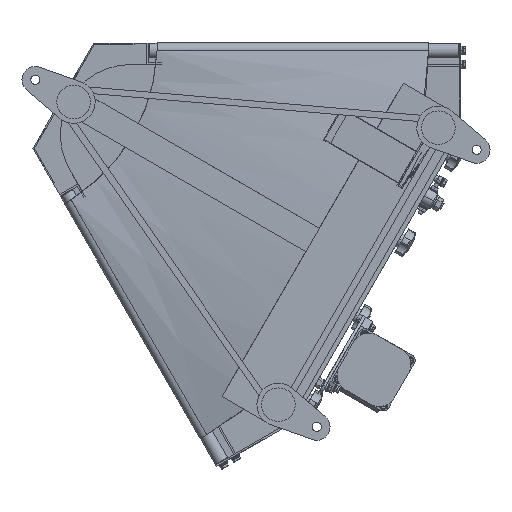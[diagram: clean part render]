
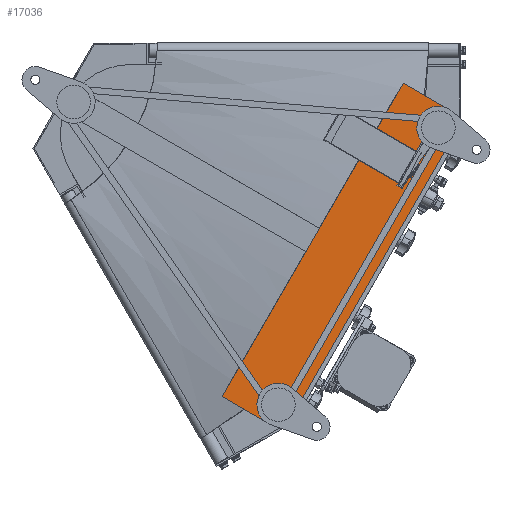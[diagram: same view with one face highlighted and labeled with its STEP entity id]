
A CAD part, front view. The second image highlights one B-rep face of the part: STEP entity #17036.
In plain terms, the highlighted planar face has unit normal (0, -1, 0).
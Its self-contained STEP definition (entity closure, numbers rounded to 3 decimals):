
#2083 = ORIENTED_EDGE ( 'NONE', *, *, #35653, .F. ) ;
#2647 = CARTESIAN_POINT ( 'NONE',  ( 415.971, -167.5, -537.496 ) ) ;
#3127 = ORIENTED_EDGE ( 'NONE', *, *, #23452, .F. ) ;
#3461 = DIRECTION ( 'NONE',  ( 0., 1., 0. ) ) ;
#3907 = EDGE_CURVE ( 'NONE', #15652, #10675, #46188, .T. ) ;
#6140 = FACE_OUTER_BOUND ( 'NONE', #29902, .T. ) ;
#8160 = CARTESIAN_POINT ( 'NONE',  ( 612.849, -167.5, -56.493 ) ) ;
#9217 = VECTOR ( 'NONE', #20214, 1000. ) ;
#9658 = VERTEX_POINT ( 'NONE', #36679 ) ;
#10009 = ORIENTED_EDGE ( 'NONE', *, *, #33187, .F. ) ;
#10465 = ORIENTED_EDGE ( 'NONE', *, *, #13210, .F. ) ;
#10675 = VERTEX_POINT ( 'NONE', #32160 ) ;
#12622 = CARTESIAN_POINT ( 'NONE',  ( 684.452, -167.5, -132.474 ) ) ;
#13210 = EDGE_CURVE ( 'NONE', #19449, #24690, #23119, .T. ) ;
#15652 = VERTEX_POINT ( 'NONE', #12622 ) ;
#17036 = ADVANCED_FACE ( 'NONE', ( #6140 ), #52165, .F. ) ;
#17815 = LINE ( 'NONE', #48346, #45565 ) ;
#17868 = AXIS2_PLACEMENT_3D ( 'NONE', #36145, #3461, #31548 ) ;
#19449 = VERTEX_POINT ( 'NONE', #42328 ) ;
#20214 = DIRECTION ( 'NONE',  ( 0.866, 0., -0.5 ) ) ;
#20882 = LINE ( 'NONE', #2647, #38531 ) ;
#23119 = LINE ( 'NONE', #35446, #45790 ) ;
#23212 = ORIENTED_EDGE ( 'NONE', *, *, #51304, .F. ) ;
#23452 = EDGE_CURVE ( 'NONE', #36930, #15652, #39043, .T. ) ;
#23795 = LINE ( 'NONE', #8160, #9217 ) ;
#24690 = VERTEX_POINT ( 'NONE', #34773 ) ;
#24774 = VECTOR ( 'NONE', #39998, 1000. ) ;
#27676 = DIRECTION ( 'NONE',  ( -0.866, 0., 0.5 ) ) ;
#28284 = DIRECTION ( 'NONE',  ( 0.5, 0., 0.866 ) ) ;
#29902 = EDGE_LOOP ( 'NONE', ( #3127, #10009, #2083, #10465, #23212, #33503 ) ) ;
#31548 = DIRECTION ( 'NONE',  ( 0.208, 0., 0.978 ) ) ;
#31870 = CARTESIAN_POINT ( 'NONE',  ( 456.952, -167.5, -526.515 ) ) ;
#32160 = CARTESIAN_POINT ( 'NONE',  ( 456.952, -167.5, -526.515 ) ) ;
#33187 = EDGE_CURVE ( 'NONE', #9658, #36930, #23795, .T. ) ;
#33503 = ORIENTED_EDGE ( 'NONE', *, *, #3907, .F. ) ;
#34620 = DIRECTION ( 'NONE',  ( -0.966, 0., -0.259 ) ) ;
#34773 = CARTESIAN_POINT ( 'NONE',  ( 355.349, -167.5, -502.496 ) ) ;
#35446 = CARTESIAN_POINT ( 'NONE',  ( 355.349, -167.5, -502.496 ) ) ;
#35653 = EDGE_CURVE ( 'NONE', #24690, #9658, #17815, .T. ) ;
#36145 = CARTESIAN_POINT ( 'NONE',  ( 95.687, -167.5, -55.245 ) ) ;
#36679 = CARTESIAN_POINT ( 'NONE',  ( 612.849, -167.5, -56.493 ) ) ;
#36930 = VERTEX_POINT ( 'NONE', #44898 ) ;
#37171 = VECTOR ( 'NONE', #46350, 1000. ) ;
#38531 = VECTOR ( 'NONE', #34620, 1000. ) ;
#39043 = LINE ( 'NONE', #50069, #37171 ) ;
#39998 = DIRECTION ( 'NONE',  ( -0.5, 0., -0.866 ) ) ;
#42328 = CARTESIAN_POINT ( 'NONE',  ( 415.971, -167.5, -537.496 ) ) ;
#44898 = CARTESIAN_POINT ( 'NONE',  ( 673.471, -167.5, -91.493 ) ) ;
#45565 = VECTOR ( 'NONE', #28284, 1000. ) ;
#45790 = VECTOR ( 'NONE', #27676, 1000. ) ;
#46188 = LINE ( 'NONE', #31870, #24774 ) ;
#46350 = DIRECTION ( 'NONE',  ( 0.259, 0., -0.966 ) ) ;
#48346 = CARTESIAN_POINT ( 'NONE',  ( 355.349, -167.5, -502.496 ) ) ;
#50069 = CARTESIAN_POINT ( 'NONE',  ( 684.452, -167.5, -132.474 ) ) ;
#51304 = EDGE_CURVE ( 'NONE', #10675, #19449, #20882, .T. ) ;
#52165 = PLANE ( 'NONE',  #17868 ) ;
